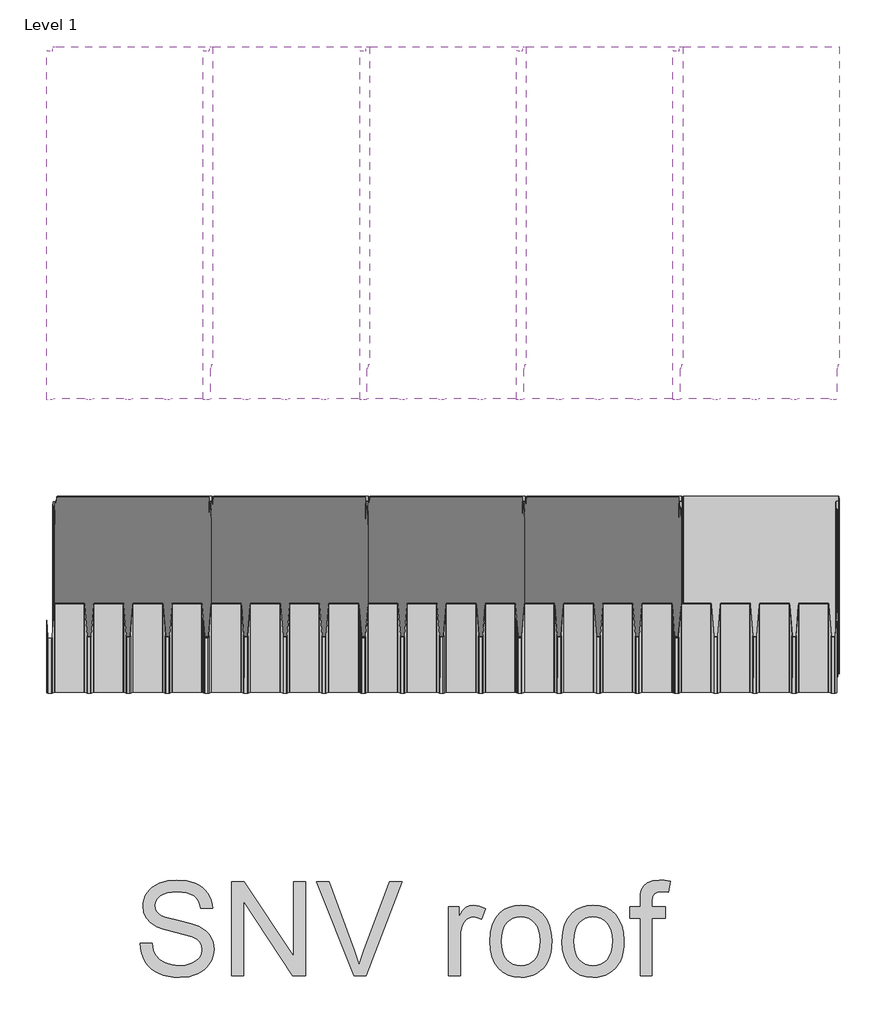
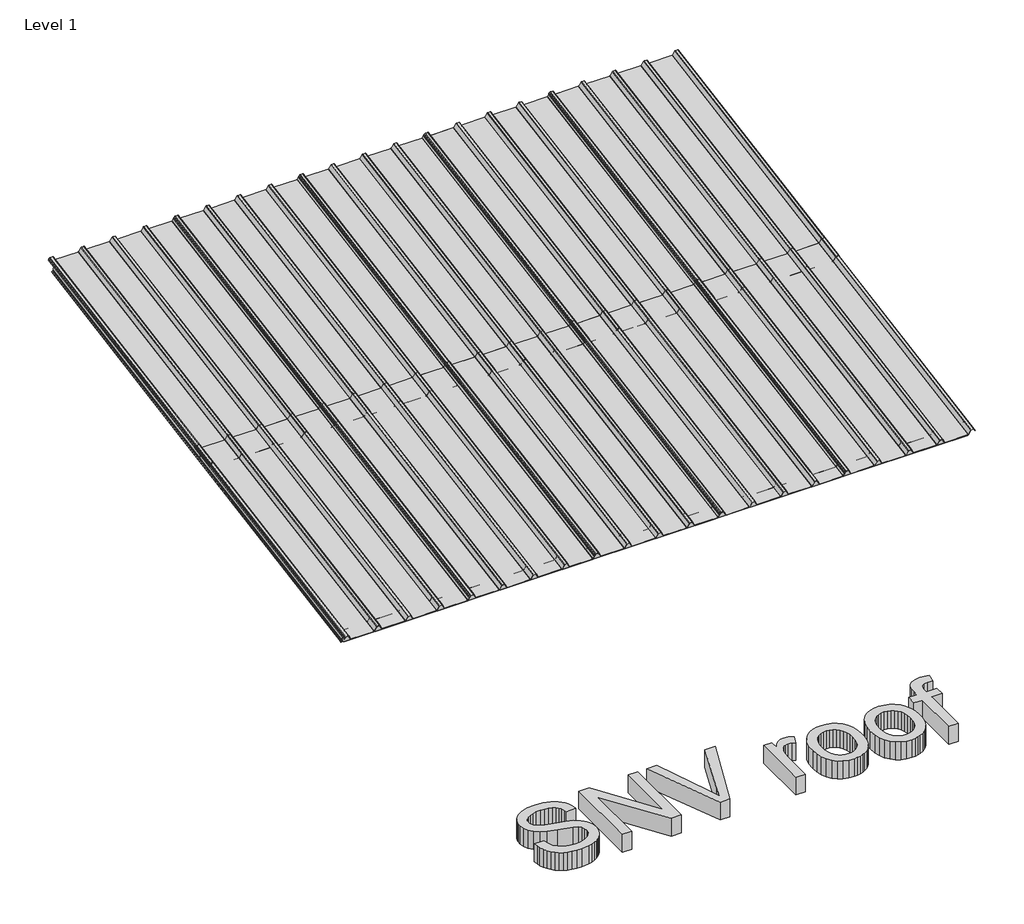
# One storey: 10 plates, 1 proxy.
"""IFC4 building model written with IfcOpenShell, lengths in millimetres."""

from ifc_helpers import new_model, si_unit, origin, origin_with_axes, place, context, project, spatial, polyline, outline, extrude, transform, mapped, element, save
from components import plate_120_ral9006_ral9002_e4ba5327, plate_120_ral9006_ral9002_c13cb546

model = new_model("IFC4")

# Units and contexts
model_context = context("Model", 3, world=origin())
ifc_project = project(units=[si_unit("LENGTHUNIT", "METRE", prefix="MILLI")], contexts=[model_context])

# Site, building, storey
site = spatial("IfcSite", under=ifc_project)
building = spatial("IfcBuilding", under=site)
storey = spatial("IfcBuildingStorey", under=building, Name="Level 1", Elevation=0.0)

# Proxy
placement = place(None, origin())
element("IfcBuildingElementProxy", 1, Name="600mm Arial", ObjectType="600mm Arial", at=placement, inside=storey, context=model_context, shape_type="SweptSolid", body=[
    extrude(outline(polyline([(-5418.9240653, -1752.7040952), (-5343.5818327, -1752.7040952), (-5334.9366059, -1794.5138839), (-5319.3016211, -1828.1199042), (-5294.9110448, -1854.7913489), (-5259.9990434, -1875.7974108), (-5217.324732, -1889.4274387), (-5169.6472254, -1893.9707813), (-5127.6718898, -1890.5310847), (-5090.9204784, -1880.2119947), (-5061.1404309, -1863.8780341), (-5040.0791867, -1842.3937256), (-5027.5528048, -1817.7272378), (-5023.3773441, -1791.8467395), (-5026.5043411, -1766.6284287), (-5035.885332, -1744.8314205), (-5054.9416193, -1726.2349856), (-5087.0945057, -1710.6183949), (-5196.7969167, -1681.8500229), (-5268.8098172, -1662.8121297), (-5314.8870371, -1644.6939414), (-5352.3926065, -1619.3468719), (-5378.9720807, -1588.6287253), (-5394.8094006, -1553.2016892), (-5400.0885072, -1513.7279511), (-5398.4560308, -1491.2917479), (-5393.5586018, -1469.6005058), (-5385.39622, -1448.6542247), (-5373.9688855, -1428.4529046), (-5359.4053571, -1409.8196816), (-5341.8343933, -1393.5776915), (-5321.2559942, -1379.7269344), (-5297.6701597, -1368.2674102), (-5244.6583642, -1352.8715487), (-5185.981186, -1347.7395949), (-5122.4111772, -1353.110672), (-5066.7874196, -1369.2239034), (-5042.4520256, -1381.2260535), (-5021.0964758, -1395.7481953), (-5002.7207701, -1412.7903287), (-4987.3249086, -1432.3524538), (-4975.0284529, -1453.8643535), (-4965.9509647, -1476.7558106), (-4960.0924439, -1501.0268252), (-4957.4528906, -1526.6773974), (-5032.7951232, -1526.6773974), (-5037.8351065, -1502.636309), (-5046.6274862, -1481.7222175), (-5059.1722623, -1463.9351231), (-5075.4694347, -1449.2750256), (-5095.822506, -1437.8155014), (-5120.5349791, -1429.630127), (-5149.6068537, -1424.7189024), (-5183.03813, -1423.0818275), (-5217.5362641, -1424.7005083), (-5247.012809, -1429.5565506), (-5271.4677646, -1437.6499545), (-5290.901131, -1448.98072), (-5305.7083813, -1462.6015509), (-5316.2849887, -1477.565151), (-5322.6309531, -1493.8715204), (-5324.7462746, -1511.5206592), (-5323.2471555, -1526.7049885), (-5318.7497981, -1540.4729722), (-5311.2542024, -1552.8246102), (-5300.7603685, -1563.7599025), (-5284.2424669, -1574.1157806), (-5258.2332099, -1584.5820234), (-5177.7406293, -1605.8456027), (-5094.6728748, -1626.0423243), (-5044.4201943, -1643.6638718), (-5001.4699713, -1670.9975041), (-4984.8646978, -1687.0647502), (-4971.5059828, -1704.732283), (-4961.2374766, -1723.908132), (-4953.9028293, -1744.5003267), (-4948.0351115, -1789.9337531), (-4949.7227702, -1813.5011934), (-4954.7857461, -1836.378855), (-4963.2240394, -1858.5667378), (-4975.03765, -1880.0648419), (-4990.0196442, -1900.0408343), (-5007.9630885, -1917.6623818), (-5028.8679829, -1932.9294846), (-5052.7343274, -1945.8421427), (-5078.8677446, -1956.1106489), (-5106.5738573, -1963.4452961), (-5166.7041695, -1969.313014), (-5205.244407, -1967.7311214), (-5240.5196918, -1962.9854436), (-5272.5300239, -1955.0759807), (-5301.2754033, -1944.0027327), (-5326.9305739, -1929.7473054), (-5349.6702798, -1912.2913047), (-5369.4945208, -1891.6347307), (-5386.403297, -1867.7775833), (-5400.0241278, -1841.4924147), (-5409.9845329, -1813.5517772), (-5416.284512, -1783.9556707), (-5418.9240653, -1752.7040952)])), origin_with_axes(), (0.0, 0.0, 1.0), 150.0),
    extrude(outline(polyline([(-4835.0217626, -1959.8952349), (-4835.0217626, -1357.157374), (-4754.3820293, -1357.157374), (-4439.4750414, -1834.6682037), (-4439.4750414, -1357.157374), (-4364.1328088, -1357.157374), (-4364.1328088, -1959.8952349), (-4444.7725421, -1959.8952349), (-4759.67953, -1482.2372523), (-4759.67953, -1959.8952349), (-4835.0217626, -1959.8952349)])), origin_with_axes(), (0.0, 0.0, 1.0), 150.0),
    extrude(outline(polyline([(-4054.229016, -1959.8952349), (-4294.0880769, -1357.157374), (-4213.4483436, -1357.157374), (-4052.9046409, -1791.4052811), (-4020.3838725, -1889.2618918), (-3988.3045625, -1791.4052811), (-3827.3194014, -1357.157374), (-3746.6796681, -1357.157374), (-3976.3851859, -1959.8952349), (-4054.229016, -1959.8952349)])), origin_with_axes(), (0.0, 0.0, 1.0), 150.0),
    extrude(outline(polyline([(-3450.6082384, -1959.8952349), (-3450.6082384, -1517.2596183), (-3384.6837848, -1517.2596183), (-3384.6837848, -1582.7426134), (-3360.3299967, -1544.7771915), (-3337.889195, -1522.4099662), (-3315.3748169, -1511.483871), (-3290.8002997, -1507.8418392), (-3253.2763361, -1513.6543747), (-3215.1637614, -1531.0919813), (-3240.3268899, -1598.6351156), (-3266.8143936, -1587.0468328), (-3293.3018972, -1583.1840718), (-3315.7978812, -1586.89968), (-3335.9026323, -1598.0465044), (-3352.1446223, -1615.7784166), (-3363.0523235, -1639.2492879), (-3372.2125852, -1681.3349881), (-3375.2660057, -1727.2466611), (-3375.2660057, -1959.8952349), (-3450.6082384, -1959.8952349)])), origin_with_axes(), (0.0, 0.0, 1.0), 150.0),
    extrude(outline(polyline([(-3186.9104242, -1738.5774266), (-3182.8361311, -1681.2522147), (-3170.6132518, -1631.8548598), (-3150.2417863, -1590.3853619), (-3121.7217347, -1556.843721), (-3093.0085449, -1535.4053977), (-3061.3155111, -1520.0923096), (-3026.642633, -1510.9044568), (-2988.9899108, -1507.8418392), (-2947.4238439, -1511.5712429), (-2909.8400995, -1522.7594541), (-2876.2386778, -1541.4064727), (-2846.6195787, -1567.5122988), (-2822.4451331, -1600.1940156), (-2805.1776719, -1638.5687062), (-2794.8171952, -1682.6363707), (-2791.363703, -1732.3970091), (-2792.8904133, -1772.7260728), (-2797.4705441, -1808.5117939), (-2805.1040955, -1839.7541723), (-2815.7910675, -1866.4532081), (-2829.3981028, -1889.5148107), (-2845.7918442, -1909.8448894), (-2864.9722917, -1927.4434444), (-2886.9394453, -1942.3104755), (-2910.8379795, -1954.1240861), (-2935.8125684, -1962.5623793), (-2961.8632122, -1967.6253553), (-2988.9899108, -1969.313014), (-3031.162983, -1965.5974058), (-3069.0962153, -1954.4505814), (-3102.7896075, -1935.8725406), (-3132.2431597, -1909.8632835), (-3156.1600879, -1876.8642686), (-3173.2436081, -1837.3169541), (-3183.4937202, -1791.2213401), (-3186.9104242, -1738.5774266)]), holes=[polyline([(-3111.5681916, -1738.4302738), (-3109.3884908, -1774.9747515), (-3102.8493883, -1806.6172016), (-3091.9508842, -1833.3576241), (-3076.6929785, -1855.1960191), (-3058.1333318, -1872.1599776), (-3037.329605, -1884.2770908), (-3014.281798, -1891.5473587), (-2988.9899108, -1893.9707813), (-2963.8267823, -1891.5335631), (-2940.8709458, -1884.2219085), (-2920.1224013, -1872.0358174), (-2901.5811488, -1854.9752899), (-2886.323243, -1832.9207642), (-2875.4247389, -1805.7526789), (-2868.8856364, -1773.4710338), (-2866.7059356, -1736.075829), (-2868.899432, -1700.6901796), (-2875.4799212, -1669.875464), (-2886.4474032, -1643.6316822), (-2901.801878, -1621.9588341), (-2920.4121084, -1604.9948756), (-2941.1468573, -1592.8777624), (-2964.0061248, -1585.6074945), (-2988.9899108, -1583.1840718), (-3014.281798, -1585.5982974), (-3037.329605, -1592.8409742), (-3058.1333318, -1604.9121022), (-3076.6929785, -1621.8116813), (-3091.9508842, -1643.5856969), (-3102.8493883, -1670.2801342), (-3109.3884908, -1701.8949931), (-3111.5681916, -1738.4302738)])]), origin_with_axes(), (0.0, 0.0, 1.0), 150.0),
    extrude(outline(polyline([(-2725.4392495, -1738.5774266), (-2721.3649564, -1681.2522147), (-2709.1420771, -1631.8548598), (-2688.7706116, -1590.3853619), (-2660.2505599, -1556.843721), (-2631.5373702, -1535.4053977), (-2599.8443363, -1520.0923096), (-2565.1714583, -1510.9044568), (-2527.5187361, -1507.8418392), (-2485.9526691, -1511.5712429), (-2448.3689248, -1522.7594541), (-2414.7675031, -1541.4064727), (-2385.1484039, -1567.5122988), (-2360.9739583, -1600.1940156), (-2343.7064972, -1638.5687062), (-2333.3460205, -1682.6363707), (-2329.8925282, -1732.3970091), (-2331.4192385, -1772.7260728), (-2335.9993694, -1808.5117939), (-2343.6329208, -1839.7541723), (-2354.3198927, -1866.4532081), (-2367.926928, -1889.5148107), (-2384.3206694, -1909.8448894), (-2403.501117, -1927.4434444), (-2425.4682706, -1942.3104755), (-2449.3668047, -1954.1240861), (-2474.3413937, -1962.5623793), (-2500.3920374, -1967.6253553), (-2527.5187361, -1969.313014), (-2569.6918083, -1965.5974058), (-2607.6250405, -1954.4505814), (-2641.3184327, -1935.8725406), (-2670.771985, -1909.8632835), (-2694.6889132, -1876.8642686), (-2711.7724333, -1837.3169541), (-2722.0225454, -1791.2213401), (-2725.4392495, -1738.5774266)]), holes=[polyline([(-2650.0970169, -1738.4302738), (-2647.917316, -1774.9747515), (-2641.3782136, -1806.6172016), (-2630.4797095, -1833.3576241), (-2615.2218037, -1855.1960191), (-2596.6621571, -1872.1599776), (-2575.8584302, -1884.2770908), (-2552.8106232, -1891.5473587), (-2527.5187361, -1893.9707813), (-2502.3556076, -1891.5335631), (-2479.3997711, -1884.2219085), (-2458.6512266, -1872.0358174), (-2440.109974, -1854.9752899), (-2424.8520683, -1832.9207642), (-2413.9535641, -1805.7526789), (-2407.4144617, -1773.4710338), (-2405.2347609, -1736.075829), (-2407.4282573, -1700.6901796), (-2414.0087464, -1669.875464), (-2424.9762284, -1643.6316822), (-2440.3307032, -1621.9588341), (-2458.9409336, -1604.9948756), (-2479.6756826, -1592.8777624), (-2502.5349501, -1585.6074945), (-2527.5187361, -1583.1840718), (-2552.8106232, -1585.5982974), (-2575.8584302, -1592.8409742), (-2596.6621571, -1604.9121022), (-2615.2218037, -1621.8116813), (-2630.4797095, -1643.5856969), (-2641.3782136, -1670.2801342), (-2647.917316, -1701.8949931), (-2650.0970169, -1738.4302738)])]), origin_with_axes(), (0.0, 0.0, 1.0), 150.0),
    extrude(outline(polyline([(-2226.2969584, -1959.8952349), (-2226.2969584, -1592.6018509), (-2292.2214119, -1592.6018509), (-2292.2214119, -1517.2596183), (-2226.2969584, -1517.2596183), (-2226.2969584, -1472.6723205), (-2224.3103956, -1435.7737564), (-2218.3507073, -1409.8380757), (-2203.1939691, -1384.7853118), (-2179.7966742, -1364.9564723), (-2147.0551766, -1352.0438143), (-2103.8658304, -1347.7395949), (-2071.161121, -1349.7997341), (-2035.1454737, -1355.9801516), (-2046.1819336, -1426.6134947), (-2089.592009, -1423.0818275), (-2118.2316223, -1426.2088245), (-2137.0487864, -1435.5898154), (-2147.4782409, -1453.5056685), (-2150.9547258, -1482.2372523), (-2150.9547258, -1517.2596183), (-2066.1947141, -1517.2596183), (-2066.1947141, -1592.6018509), (-2150.9547258, -1592.6018509), (-2150.9547258, -1959.8952349), (-2226.2969584, -1959.8952349)])), origin_with_axes(), (0.0, 0.0, 1.0), 150.0),
])

# Plates
plate_120_ral9006_ral9002_shape = plate_120_ral9006_ral9002_e4ba5327(model_context)
element("IfcPlate", 2, ObjectType="TR_C_SNV_Panel_LAYOUT : 120/RAL9006/RAL9002", at=placement, inside=storey, context=model_context, shape_type="MappedRepresentation", body=[
    mapped(plate_120_ral9006_ral9002_shape, transform((-5494.1155055, -30.3930879, 1000.0), x_axis=(1.0, 0.0, 0.0), y_axis=(0.0, 0.17364817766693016, -0.9848077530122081), z_axis=(0.0, 0.9848077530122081, 0.17364817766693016))),
])
element("IfcPlate", 3, ObjectType="TR_C_SNV_Panel_LAYOUT : 120/RAL9006/RAL9002", at=placement, inside=storey, context=model_context, shape_type="MappedRepresentation", body=[
    mapped(plate_120_ral9006_ral9002_shape, transform((-4494.1155053, -30.3930879, 1000.0), x_axis=(1.0, 0.0, 0.0), y_axis=(0.0, 0.17364817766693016, -0.9848077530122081), z_axis=(0.0, 0.9848077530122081, 0.17364817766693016))),
])
element("IfcPlate", 4, ObjectType="TR_C_SNV_Panel_LAYOUT : 120/RAL9006/RAL9002", at=placement, inside=storey, context=model_context, shape_type="MappedRepresentation", body=[
    mapped(plate_120_ral9006_ral9002_shape, transform((-3494.1155053, -30.3930879, 1000.0), x_axis=(1.0, 0.0, 0.0), y_axis=(0.0, 0.17364817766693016, -0.9848077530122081), z_axis=(0.0, 0.9848077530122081, 0.17364817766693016))),
])
element("IfcPlate", 5, ObjectType="TR_C_SNV_Panel_LAYOUT : 120/RAL9006/RAL9002", at=placement, inside=storey, context=model_context, shape_type="MappedRepresentation", body=[
    mapped(plate_120_ral9006_ral9002_shape, transform((-2494.1155053, -30.3930879, 1000.0), x_axis=(1.0, 0.0, 0.0), y_axis=(0.0, 0.17364817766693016, -0.9848077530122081), z_axis=(0.0, 0.9848077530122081, 0.17364817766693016))),
])
element("IfcPlate", 6, ObjectType="TR_C_SNV_Panel_LAYOUT : 120/RAL9006/RAL9002", at=placement, inside=storey, context=model_context, shape_type="MappedRepresentation", body=[
    mapped(plate_120_ral9006_ral9002_shape, transform((-1494.1155055, -30.3930879, 1000.0), x_axis=(1.0, 0.0, 0.0), y_axis=(0.0, 0.17364817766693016, -0.9848077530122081), z_axis=(0.0, 0.9848077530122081, 0.17364817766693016))),
])
plate_120_ral9006_ral9002_2_shape = plate_120_ral9006_ral9002_c13cb546(model_context)
element("IfcPlate", 7, ObjectType="TR_C_SNV_Panel_LAYOUT : 120/RAL9006/RAL9002", at=placement, inside=storey, context=model_context, shape_type="MappedRepresentation", body=[
    mapped(plate_120_ral9006_ral9002_2_shape, transform((-5494.1155055, 1939.2224182, 1347.2963553), x_axis=(1.0, 0.0, 0.0), y_axis=(0.0, 0.17364817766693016, -0.9848077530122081), z_axis=(0.0, 0.9848077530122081, 0.17364817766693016))),
])
element("IfcPlate", 8, ObjectType="TR_C_SNV_Panel_LAYOUT : 120/RAL9006/RAL9002", at=placement, inside=storey, context=model_context, shape_type="MappedRepresentation", body=[
    mapped(plate_120_ral9006_ral9002_2_shape, transform((-4494.1155053, 1939.2224182, 1347.2963553), x_axis=(1.0, 0.0, 0.0), y_axis=(0.0, 0.17364817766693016, -0.9848077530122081), z_axis=(0.0, 0.9848077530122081, 0.17364817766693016))),
])
element("IfcPlate", 9, ObjectType="TR_C_SNV_Panel_LAYOUT : 120/RAL9006/RAL9002", at=placement, inside=storey, context=model_context, shape_type="MappedRepresentation", body=[
    mapped(plate_120_ral9006_ral9002_2_shape, transform((-3494.1155053, 1939.2224182, 1347.2963553), x_axis=(1.0, 0.0, 0.0), y_axis=(0.0, 0.17364817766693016, -0.9848077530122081), z_axis=(0.0, 0.9848077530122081, 0.17364817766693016))),
])
element("IfcPlate", 10, ObjectType="TR_C_SNV_Panel_LAYOUT : 120/RAL9006/RAL9002", at=placement, inside=storey, context=model_context, shape_type="MappedRepresentation", body=[
    mapped(plate_120_ral9006_ral9002_2_shape, transform((-2494.1155053, 1939.2224182, 1347.2963553), x_axis=(1.0, 0.0, 0.0), y_axis=(0.0, 0.17364817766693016, -0.9848077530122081), z_axis=(0.0, 0.9848077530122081, 0.17364817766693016))),
])
element("IfcPlate", 11, ObjectType="TR_C_SNV_Panel_LAYOUT : 120/RAL9006/RAL9002", at=placement, inside=storey, context=model_context, shape_type="MappedRepresentation", body=[
    mapped(plate_120_ral9006_ral9002_2_shape, transform((-1494.1155055, 1939.2224182, 1347.2963553), x_axis=(1.0, 0.0, 0.0), y_axis=(0.0, 0.17364817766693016, -0.9848077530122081), z_axis=(0.0, 0.9848077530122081, 0.17364817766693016))),
])

save(model, "model.ifc")
